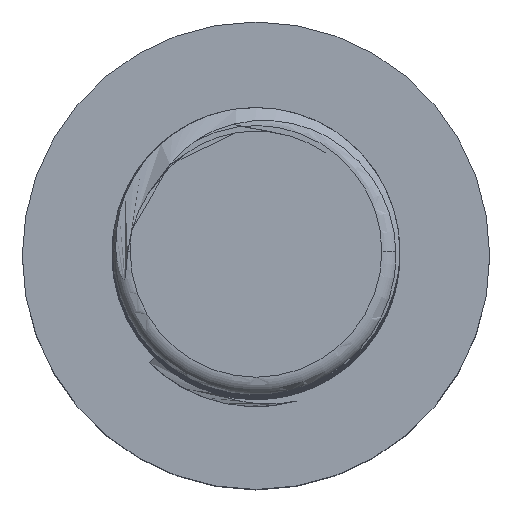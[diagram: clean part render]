
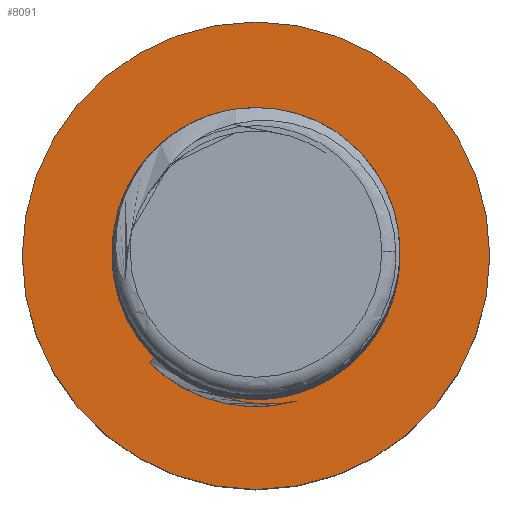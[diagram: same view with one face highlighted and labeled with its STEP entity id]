
A CAD part, top view. The second image highlights one B-rep face of the part: STEP entity #8091.
In plain terms, the highlighted planar face has unit normal (0, 0, 1).
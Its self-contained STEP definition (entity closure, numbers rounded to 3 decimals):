
#57 = CARTESIAN_POINT ( 'NONE',  ( -2.968, -2.968, 8. ) ) ;
#352 = B_SPLINE_CURVE_WITH_KNOTS ( 'NONE', 3,
 ( #7369, #5188, #4115, #3039, #1945, #853, #10339, #9258, #8191, #7111, #6021, #4937 ),
 .UNSPECIFIED., .F., .F.,
 ( 4, 2, 2, 2, 2, 4 ),
 ( 0., 0.001, 0.002, 0.002, 0.003, 0.004 ),
 .UNSPECIFIED. ) ;
#605 = CARTESIAN_POINT ( 'NONE',  ( 0., 0., 8. ) ) ;
#680 = ORIENTED_EDGE ( 'NONE', *, *, #9769, .F. ) ;
#853 = CARTESIAN_POINT ( 'NONE',  ( -0.7, -4.143, 8. ) ) ;
#911 = EDGE_CURVE ( 'NONE', #9036, #4067, #4214, .T. ) ;
#938 = VERTEX_POINT ( 'NONE', #2768 ) ;
#951 = CARTESIAN_POINT ( 'NONE',  ( 1.136, -4.041, 8. ) ) ;
#1063 = FACE_BOUND ( 'NONE', #3435, .T. ) ;
#1220 = EDGE_CURVE ( 'NONE', #6369, #938, #3413, .T. ) ;
#1345 = AXIS2_PLACEMENT_3D ( 'NONE', #4962, #3880, #2807 ) ;
#1641 = AXIS2_PLACEMENT_3D ( 'NONE', #10440, #9361, #8292 ) ;
#1679 = ORIENTED_EDGE ( 'NONE', *, *, #3770, .T. ) ;
#1777 = EDGE_LOOP ( 'NONE', ( #9640, #6678 ) ) ;
#1945 = CARTESIAN_POINT ( 'NONE',  ( -0.332, -4.188, 8. ) ) ;
#2045 = CARTESIAN_POINT ( 'NONE',  ( 0.748, -4.119, 8. ) ) ;
#2768 = CARTESIAN_POINT ( 'NONE',  ( 6.5, 0., 8. ) ) ;
#2807 = DIRECTION ( 'NONE',  ( 1., 0., 0. ) ) ;
#2839 = AXIS2_PLACEMENT_3D ( 'NONE', #605, #10087, #9021 ) ;
#3039 = CARTESIAN_POINT ( 'NONE',  ( -0.145, -4.199, 8. ) ) ;
#3080 = CIRCLE ( 'NONE', #2839, 4. ) ;
#3102 = EDGE_CURVE ( 'NONE', #8642, #9953, #6893, .T. ) ;
#3137 = CARTESIAN_POINT ( 'NONE',  ( 0.351, -4.14, 8. ) ) ;
#3193 = DIRECTION ( 'NONE',  ( 1., 0., 0. ) ) ;
#3244 = ORIENTED_EDGE ( 'NONE', *, *, #5269, .F. ) ;
#3413 = CIRCLE ( 'NONE', #1641, 6.5 ) ;
#3435 = EDGE_LOOP ( 'NONE', ( #3244, #9265, #6229, #680, #4819, #1679 ) ) ;
#3530 = CARTESIAN_POINT ( 'NONE',  ( -2.828, -2.828, 8. ) ) ;
#3770 = EDGE_CURVE ( 'NONE', #9953, #9017, #352, .T. ) ;
#3880 = DIRECTION ( 'NONE',  ( 0., 0., 1. ) ) ;
#3969 = CIRCLE ( 'NONE', #5369, 6.5 ) ;
#4000 = CARTESIAN_POINT ( 'NONE',  ( -6.5, 0., 8. ) ) ;
#4007 = DIRECTION ( 'NONE',  ( 1., 0., 0. ) ) ;
#4067 = VERTEX_POINT ( 'NONE', #3530 ) ;
#4115 = CARTESIAN_POINT ( 'NONE',  ( 0.411, -4.194, 8. ) ) ;
#4210 = CARTESIAN_POINT ( 'NONE',  ( -0.426, -4.067, 8. ) ) ;
#4214 = CIRCLE ( 'NONE', #10163, 4. ) ;
#4266 = DIRECTION ( 'NONE',  ( 0., 0., 1. ) ) ;
#4753 = CARTESIAN_POINT ( 'NONE',  ( 1.136, -4.041, 8. ) ) ;
#4819 = ORIENTED_EDGE ( 'NONE', *, *, #3102, .T. ) ;
#4937 = CARTESIAN_POINT ( 'NONE',  ( -2.968, -2.968, 8. ) ) ;
#4962 = CARTESIAN_POINT ( 'NONE',  ( 0., 0., 8. ) ) ;
#5089 = DIRECTION ( 'NONE',  ( 0., 0., 1. ) ) ;
#5188 = CARTESIAN_POINT ( 'NONE',  ( 0.776, -4.142, 8. ) ) ;
#5211 = CARTESIAN_POINT ( 'NONE',  ( -4., 0., 8. ) ) ;
#5269 = EDGE_CURVE ( 'NONE', #4067, #9017, #9659, .T. ) ;
#5288 = CARTESIAN_POINT ( 'NONE',  ( -0.815, -3.971, 8. ) ) ;
#5349 = CARTESIAN_POINT ( 'NONE',  ( 0., 0., 8. ) ) ;
#5369 = AXIS2_PLACEMENT_3D ( 'NONE', #6183, #5089, #4007 ) ;
#5590 = AXIS2_PLACEMENT_3D ( 'NONE', #5349, #4266, #3193 ) ;
#5745 = EDGE_CURVE ( 'NONE', #6030, #9036, #6082, .T. ) ;
#6004 = DIRECTION ( 'NONE',  ( 1., 0., 0. ) ) ;
#6021 = CARTESIAN_POINT ( 'NONE',  ( -2.704, -3.233, 8. ) ) ;
#6030 = VERTEX_POINT ( 'NONE', #7397 ) ;
#6082 = CIRCLE ( 'NONE', #5590, 4. ) ;
#6183 = CARTESIAN_POINT ( 'NONE',  ( 0., 0., 8. ) ) ;
#6229 = ORIENTED_EDGE ( 'NONE', *, *, #5745, .F. ) ;
#6354 = CARTESIAN_POINT ( 'NONE',  ( -1.176, -3.823, 8. ) ) ;
#6369 = VERTEX_POINT ( 'NONE', #4000 ) ;
#6379 = CARTESIAN_POINT ( 'NONE',  ( -1.176, -3.823, 8. ) ) ;
#6678 = ORIENTED_EDGE ( 'NONE', *, *, #7803, .T. ) ;
#6893 = B_SPLINE_CURVE_WITH_KNOTS ( 'NONE', 3,
 ( #6379, #5288, #4210, #3137, #2045, #951 ),
 .UNSPECIFIED., .F., .F.,
 ( 4, 2, 4 ),
 ( 0.002, 0.003, 0.004 ),
 .UNSPECIFIED. ) ;
#7097 = DIRECTION ( 'NONE',  ( 0., 0., 1. ) ) ;
#7111 = CARTESIAN_POINT ( 'NONE',  ( -2.407, -3.458, 8. ) ) ;
#7369 = CARTESIAN_POINT ( 'NONE',  ( 1.136, -4.041, 8. ) ) ;
#7397 = CARTESIAN_POINT ( 'NONE',  ( 4., 0., 8. ) ) ;
#7522 = DIRECTION ( 'NONE',  ( -0.707, -0.707, 0. ) ) ;
#7803 = EDGE_CURVE ( 'NONE', #938, #6369, #3969, .T. ) ;
#8091 = ADVANCED_FACE ( 'NONE', ( #1063, #9985 ), #8215, .T. ) ;
#8176 = CARTESIAN_POINT ( 'NONE',  ( 0., 0., 8. ) ) ;
#8191 = CARTESIAN_POINT ( 'NONE',  ( -1.767, -3.825, 8. ) ) ;
#8215 = PLANE ( 'NONE',  #1345 ) ;
#8292 = DIRECTION ( 'NONE',  ( 1., 0., 0. ) ) ;
#8415 = VECTOR ( 'NONE', #7522, 1000. ) ;
#8599 = CARTESIAN_POINT ( 'NONE',  ( 0., 0., 8. ) ) ;
#8642 = VERTEX_POINT ( 'NONE', #6354 ) ;
#9017 = VERTEX_POINT ( 'NONE', #57 ) ;
#9021 = DIRECTION ( 'NONE',  ( 1., 0., 0. ) ) ;
#9036 = VERTEX_POINT ( 'NONE', #5211 ) ;
#9258 = CARTESIAN_POINT ( 'NONE',  ( -1.417, -3.968, 8. ) ) ;
#9265 = ORIENTED_EDGE ( 'NONE', *, *, #911, .F. ) ;
#9361 = DIRECTION ( 'NONE',  ( 0., 0., 1. ) ) ;
#9640 = ORIENTED_EDGE ( 'NONE', *, *, #1220, .T. ) ;
#9659 = LINE ( 'NONE', #8599, #8415 ) ;
#9769 = EDGE_CURVE ( 'NONE', #8642, #6030, #3080, .T. ) ;
#9953 = VERTEX_POINT ( 'NONE', #4753 ) ;
#9985 = FACE_OUTER_BOUND ( 'NONE', #1777, .T. ) ;
#10087 = DIRECTION ( 'NONE',  ( 0., 0., 1. ) ) ;
#10163 = AXIS2_PLACEMENT_3D ( 'NONE', #8176, #7097, #6004 ) ;
#10339 = CARTESIAN_POINT ( 'NONE',  ( -0.882, -4.108, 8. ) ) ;
#10440 = CARTESIAN_POINT ( 'NONE',  ( 0., 0., 8. ) ) ;
